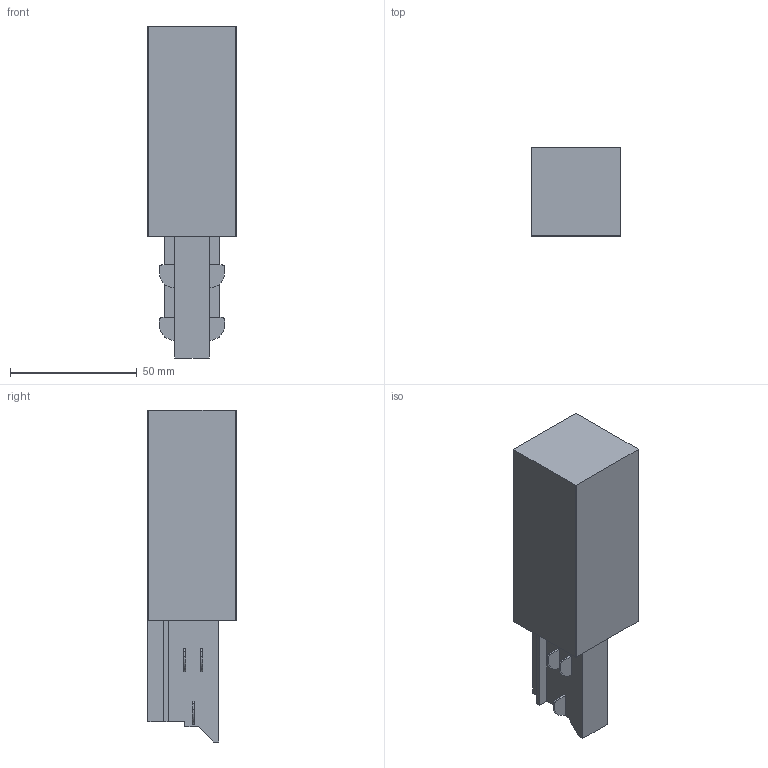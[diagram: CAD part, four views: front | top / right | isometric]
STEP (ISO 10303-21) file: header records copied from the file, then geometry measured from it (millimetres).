
FILE_DESCRIPTION (( 'STEP AP214' ), '1' );
FILE_NAME ('Kehui Track - power feed.STEP', '2024-05-08T23:39:29', ( '' ), ( '' ), 'SwSTEP 2.0', 'SolidWorks 2021', '' );
FILE_SCHEMA (( 'AUTOMOTIVE_DESIGN' ));
Length unit declared in the file: millimetre
Products named in the file (1): Kehui Track - power feed
Bounding box: 35 x 34.81 x 131 mm (x, y, z)
Volume: 118276 mm3; surface area: 19029.9 mm2
Topology: 1 solids, 1 shells, 64 faces, 168 edges, 112 vertices
Faces by surface type: plane 48, cylinder 12, bspline 4
Entity records: 2014 total; most frequent: CARTESIAN_POINT 397, ORIENTED_EDGE 336, DIRECTION 306, EDGE_CURVE 168, VECTOR 136, LINE 136, VERTEX_POINT 112, AXIS2_PLACEMENT_3D 85
